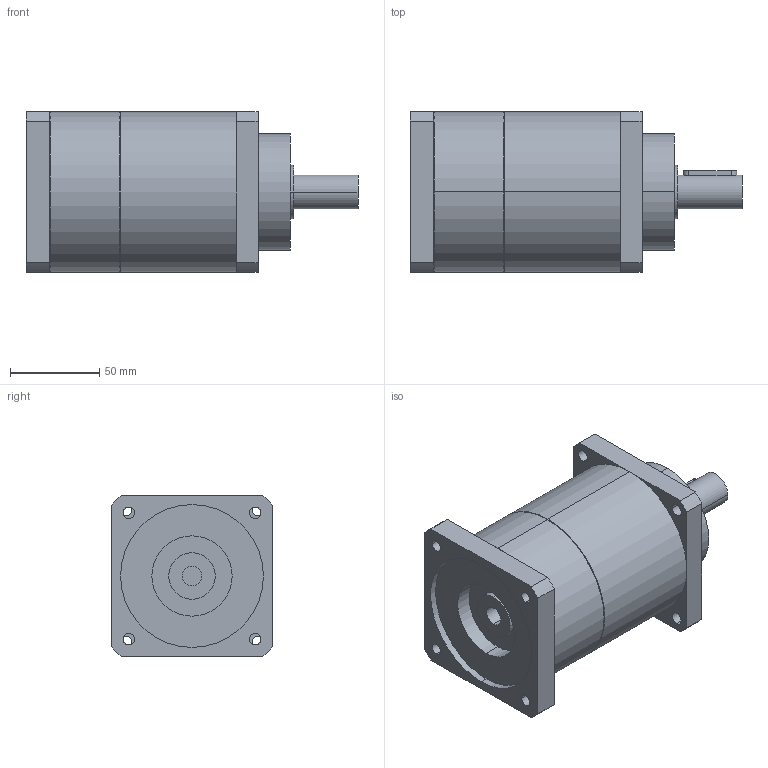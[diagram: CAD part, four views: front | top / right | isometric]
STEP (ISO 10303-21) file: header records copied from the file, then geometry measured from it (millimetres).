
FILE_DESCRIPTION(('CoCreate Modeling STEP Export'),'2;1');
FILE_NAME('GPT90_ig-9-12-16-20-25-28-35-40-50-70-100_19_B5T_11_P06.stp','2015-02-04T11:24:03',(''),(''),'CoCreate Modeling STEP processor for AP214 (Solid Model)','CoCreate Modeling 16.00C 25-Feb-2009 (C) Parametric Technology GmbH','');
FILE_SCHEMA(('AUTOMOTIVE_DESIGN { 1 0 10303 214 1 1 1 1 }'));
Length unit declared in the file: millimetre
Products named in the file (2): GPT90_ig-9-12-16-20-25-28-35-40-50-70-100_19_B5T_11_P06
Assembly tree (1 placements, depth 2):
  GPT90_ig-9-12-16-20-25-28-35-40-50-70-100_19_B5T_11_P06
    GPT90_ig-9-12-16-20-25-28-35-40-50-70-100_19_B5T_11_P06
Bounding box: 186 x 90 x 90 mm (x, y, z)
Volume: 900686.7 mm3; surface area: 70016.5 mm2
Topology: 1 solids, 1 shells, 77 faces, 206 edges, 141 vertices
Faces by surface type: cylinder 46, plane 27, cone 4
Entity records: 2596 total; most frequent: CARTESIAN_POINT 742, ORIENTED_EDGE 412, DIRECTION 324, EDGE_CURVE 206, VERTEX_POINT 141, AXIS2_PLACEMENT_3D 120, EDGE_LOOP 103, VECTOR 84
